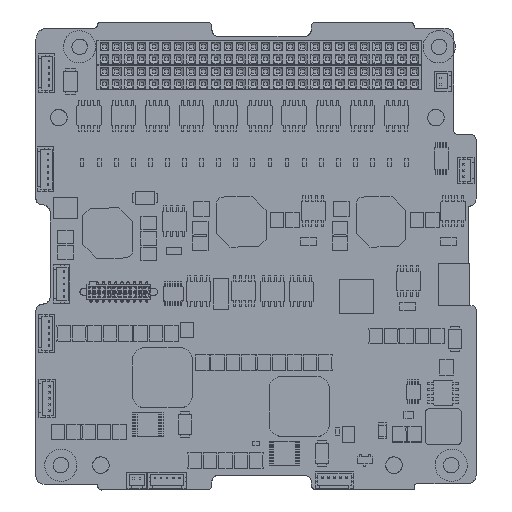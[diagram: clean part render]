
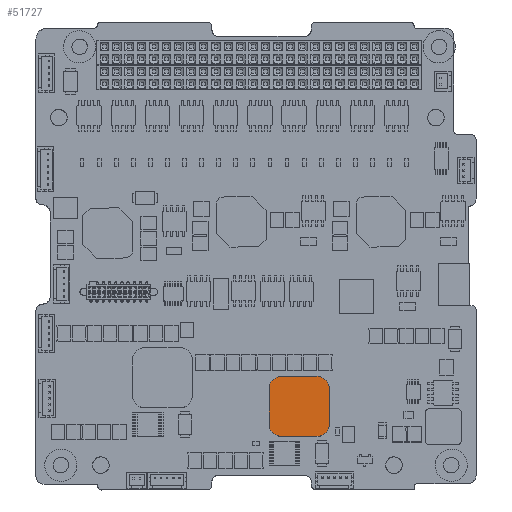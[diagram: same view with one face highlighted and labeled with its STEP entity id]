
A CAD part, top view. The second image highlights one B-rep face of the part: STEP entity #51727.
In plain terms, the highlighted planar face has unit normal (0, 0, 1).
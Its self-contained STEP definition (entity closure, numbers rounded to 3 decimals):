
#1772 = DIRECTION ( 'NONE',  ( 1., 0., 0. ) ) ;
#5210 = AXIS2_PLACEMENT_3D ( 'NONE', #33723, #255836, #173871 ) ;
#9398 = VECTOR ( 'NONE', #252012, 1000. ) ;
#11484 = DIRECTION ( 'NONE',  ( 0., 1., 0. ) ) ;
#21590 = DIRECTION ( 'NONE',  ( 0., 0., -1. ) ) ;
#23880 = VERTEX_POINT ( 'NONE', #188917 ) ;
#26575 = EDGE_CURVE ( 'NONE', #189611, #124410, #236210, .T. ) ;
#32246 = CIRCLE ( 'NONE', #158857, 2.5 ) ;
#33723 = CARTESIAN_POINT ( 'NONE',  ( 60.5, 12.38, 8.05 ) ) ;
#36373 = ORIENTED_EDGE ( 'NONE', *, *, #105421, .F. ) ;
#37155 = CARTESIAN_POINT ( 'NONE',  ( 63., 22.18, 8.05 ) ) ;
#37363 = VERTEX_POINT ( 'NONE', #228355 ) ;
#37942 = DIRECTION ( 'NONE',  ( 1., 0., 0. ) ) ;
#38439 = LINE ( 'NONE', #37155, #122910 ) ;
#46854 = DIRECTION ( 'NONE',  ( 1., 0., 0. ) ) ;
#46971 = ORIENTED_EDGE ( 'NONE', *, *, #181974, .F. ) ;
#51727 = ADVANCED_FACE ( 'NONE', ( #100074 ), #257439, .T. ) ;
#55990 = CIRCLE ( 'NONE', #73014, 2.5 ) ;
#56486 = DIRECTION ( 'NONE',  ( 0., 0., 1. ) ) ;
#57208 = EDGE_CURVE ( 'NONE', #23880, #189611, #88315, .T. ) ;
#65311 = EDGE_CURVE ( 'NONE', #216072, #146418, #199439, .T. ) ;
#67065 = CARTESIAN_POINT ( 'NONE',  ( 50.7, 12.38, 8.05 ) ) ;
#73014 = AXIS2_PLACEMENT_3D ( 'NONE', #115244, #117834, #75562 ) ;
#75562 = DIRECTION ( 'NONE',  ( 1., 0., 0. ) ) ;
#80231 = CARTESIAN_POINT ( 'NONE',  ( 56.85, 16.03, 8.05 ) ) ;
#88102 = CARTESIAN_POINT ( 'NONE',  ( 50.7, 22.18, 8.05 ) ) ;
#88275 = DIRECTION ( 'NONE',  ( -1., 0., 0. ) ) ;
#88315 = CIRCLE ( 'NONE', #113588, 2.5 ) ;
#89089 = ORIENTED_EDGE ( 'NONE', *, *, #148782, .F. ) ;
#89594 = CARTESIAN_POINT ( 'NONE',  ( 50.7, 9.88, 8.05 ) ) ;
#98739 = CARTESIAN_POINT ( 'NONE',  ( 60.5, 9.88, 8.05 ) ) ;
#100074 = FACE_OUTER_BOUND ( 'NONE', #196802, .T. ) ;
#105421 = EDGE_CURVE ( 'NONE', #124410, #139518, #55990, .T. ) ;
#107252 = VECTOR ( 'NONE', #11484, 1000. ) ;
#110555 = LINE ( 'NONE', #88102, #9398 ) ;
#110722 = LINE ( 'NONE', #89594, #192108 ) ;
#113588 = AXIS2_PLACEMENT_3D ( 'NONE', #239832, #21590, #1772 ) ;
#115244 = CARTESIAN_POINT ( 'NONE',  ( 53.2, 19.68, 8.05 ) ) ;
#117834 = DIRECTION ( 'NONE',  ( 0., 0., -1. ) ) ;
#122910 = VECTOR ( 'NONE', #122980, 1000. ) ;
#122947 = CARTESIAN_POINT ( 'NONE',  ( 53.2, 22.18, 8.05 ) ) ;
#122980 = DIRECTION ( 'NONE',  ( 0., -1., 0. ) ) ;
#124410 = VERTEX_POINT ( 'NONE', #165543 ) ;
#131529 = VERTEX_POINT ( 'NONE', #165507 ) ;
#132237 = ORIENTED_EDGE ( 'NONE', *, *, #65311, .F. ) ;
#139518 = VERTEX_POINT ( 'NONE', #122947 ) ;
#146418 = VERTEX_POINT ( 'NONE', #98739 ) ;
#148782 = EDGE_CURVE ( 'NONE', #139518, #37363, #110555, .T. ) ;
#158857 = AXIS2_PLACEMENT_3D ( 'NONE', #227992, #225413, #46854 ) ;
#165507 = CARTESIAN_POINT ( 'NONE',  ( 63., 19.68, 8.05 ) ) ;
#165543 = CARTESIAN_POINT ( 'NONE',  ( 50.7, 19.68, 8.05 ) ) ;
#173871 = DIRECTION ( 'NONE',  ( 1., 0., 0. ) ) ;
#181974 = EDGE_CURVE ( 'NONE', #146418, #23880, #110722, .T. ) ;
#186895 = EDGE_CURVE ( 'NONE', #37363, #131529, #32246, .T. ) ;
#188917 = CARTESIAN_POINT ( 'NONE',  ( 53.2, 9.88, 8.05 ) ) ;
#189611 = VERTEX_POINT ( 'NONE', #67065 ) ;
#192108 = VECTOR ( 'NONE', #88275, 1000. ) ;
#195227 = CARTESIAN_POINT ( 'NONE',  ( 50.7, 22.18, 8.05 ) ) ;
#196802 = EDGE_LOOP ( 'NONE', ( #132237, #209301, #218199, #89089, #36373, #230932, #214086, #46971 ) ) ;
#199439 = CIRCLE ( 'NONE', #5210, 2.5 ) ;
#208565 = AXIS2_PLACEMENT_3D ( 'NONE', #80231, #56486, #37942 ) ;
#209301 = ORIENTED_EDGE ( 'NONE', *, *, #211841, .F. ) ;
#210730 = CARTESIAN_POINT ( 'NONE',  ( 63., 12.38, 8.05 ) ) ;
#211841 = EDGE_CURVE ( 'NONE', #131529, #216072, #38439, .T. ) ;
#214086 = ORIENTED_EDGE ( 'NONE', *, *, #57208, .F. ) ;
#216072 = VERTEX_POINT ( 'NONE', #210730 ) ;
#218199 = ORIENTED_EDGE ( 'NONE', *, *, #186895, .F. ) ;
#225413 = DIRECTION ( 'NONE',  ( 0., 0., -1. ) ) ;
#227992 = CARTESIAN_POINT ( 'NONE',  ( 60.5, 19.68, 8.05 ) ) ;
#228355 = CARTESIAN_POINT ( 'NONE',  ( 60.5, 22.18, 8.05 ) ) ;
#230932 = ORIENTED_EDGE ( 'NONE', *, *, #26575, .F. ) ;
#236210 = LINE ( 'NONE', #195227, #107252 ) ;
#239832 = CARTESIAN_POINT ( 'NONE',  ( 53.2, 12.38, 8.05 ) ) ;
#252012 = DIRECTION ( 'NONE',  ( 1., 0., 0. ) ) ;
#255836 = DIRECTION ( 'NONE',  ( 0., 0., -1. ) ) ;
#257439 = PLANE ( 'NONE',  #208565 ) ;
